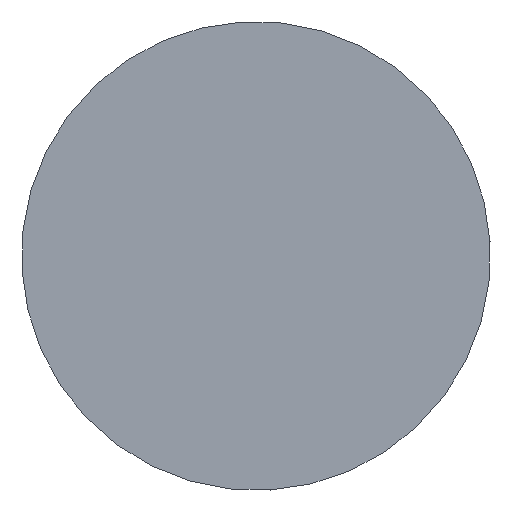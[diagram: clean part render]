
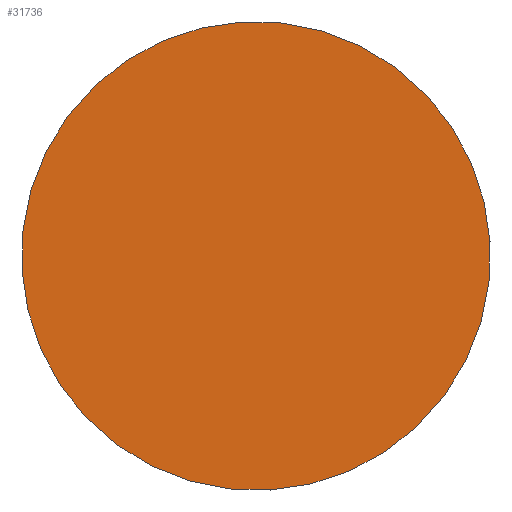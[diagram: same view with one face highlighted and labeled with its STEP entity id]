
A CAD part, left-side view. The second image highlights one B-rep face of the part: STEP entity #31736.
In plain terms, the highlighted planar face has unit normal (-1, 0, 0).
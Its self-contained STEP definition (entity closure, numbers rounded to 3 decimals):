
#31713=CARTESIAN_POINT('',(-27.588,-14.88,29.551));
#31714=VERTEX_POINT('',#31713);
#31715=CARTESIAN_POINT('',(-27.588,29.719,0.));
#31716=DIRECTION('',(-1.,0.,0.));
#31717=DIRECTION('',(0.,-0.834,0.552));
#31718=AXIS2_PLACEMENT_3D('',#31715,#31716,#31717);
#31719=CIRCLE('',#31718,53.5);
#31720=EDGE_CURVE('',#31714,#31714,#31719,.T.);
#31728=CARTESIAN_POINT('',(-27.588,-9.253,25.822));
#31729=DIRECTION('',(-1.0,0.0,0.0));
#31730=DIRECTION('',(0.0,0.552,0.834));
#31731=AXIS2_PLACEMENT_3D('',#31728,#31729,#31730);
#31732=PLANE('',#31731);
#31733=ORIENTED_EDGE('',*,*,#31720,.T.);
#31734=EDGE_LOOP('',(#31733));
#31735=FACE_OUTER_BOUND('',#31734,.T.);
#31736=ADVANCED_FACE('',(#31735),#31732,.T.);
